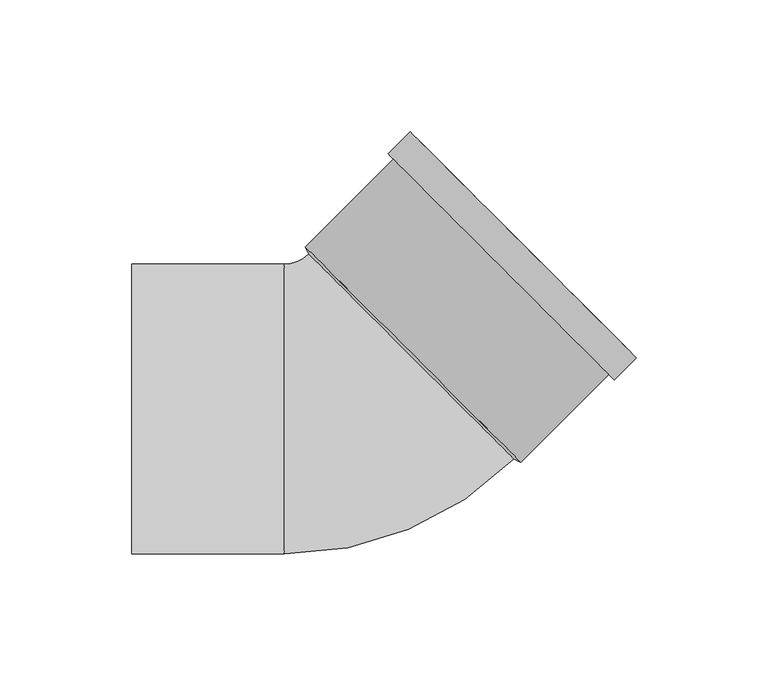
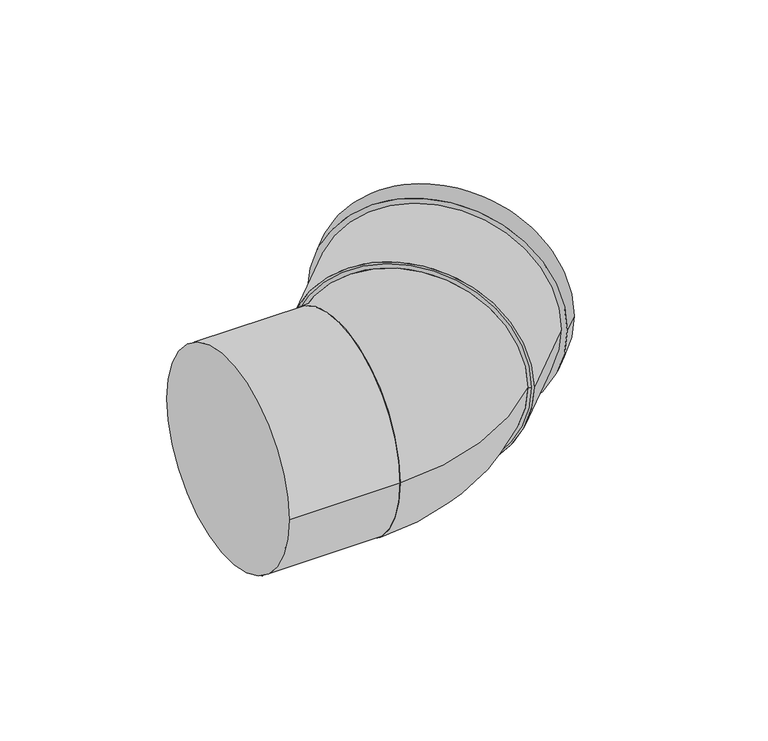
"""IFC4 building model written with IfcOpenShell, lengths in millimetres: pipe fitting geometry, Superdrain SKB Bend : Superdrain SKB Bend."""

from ifc_helpers import new_model, si_unit, point, frame, origin, origin_2d, place, context, project, spatial, polyline, circle_curve, ellipse_curve, trimmed, segment, composite_curve, outline, extrude, source, transform, mapped, element, save
from ifc_brep_helpers import plane_surface, revolved_surface, advanced_brep


def pipe_fitting_6bf98725(model_context):
    return source(origin(), model_context, "Body", "SolidModel", [
        advanced_brep(
        [(58.8312842, -18.9504617, 0.0), (-18.9504617, 58.8312842, 0.0), (-28.2, -55.0, 0.0), (-28.2, 55.0, 0.0)],
        [
            (0, 1, circle_curve(frame((19.9404112, 19.9404112, 0.0), z_axis=(0.7071067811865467, 0.7071067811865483, 0.0), x_axis=(-0.7071067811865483, 0.7071067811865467, 0.0)), 55.0)),
            (1, 0, circle_curve(frame((19.9404112, 19.9404112, 0.0), z_axis=(0.7071067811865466, 0.7071067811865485, 0.0), x_axis=(-0.7071067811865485, 0.7071067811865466, 0.0)), 55.0)),
            (2, 3, circle_curve(frame((-28.2, 0.0, 0.0), z_axis=(-1.0, 0.0, 0.0), x_axis=(0.0, 1.0, 0.0)), 55.0)),
            (3, 2, circle_curve(frame((-28.2, 0.0, 0.0), z_axis=(-1.0, 0.0, 0.0), x_axis=(0.0, 1.0, 0.0)), 55.0)),
            (3, 1, circle_curve(frame((-28.2, 68.0808225, 0.0), z_axis=(0.0, 0.0, 1.0), x_axis=(1.0, 0.0, 0.0)), 13.0808225)),
            (0, 2, circle_curve(frame((-28.2, 68.0808225, 0.0), z_axis=(0.0, 0.0, -1.0), x_axis=(1.0, 0.0, 0.0)), 123.0808225)),
        ],
        [
            plane_surface(frame((19.9404112, 19.9404112, 0.0), z_axis=(0.7071067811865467, 0.7071067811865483, 0.0), x_axis=(0.0, 0.0, -1.0))),
            plane_surface(frame((-28.2, 0.0, 0.0), z_axis=(-1.0, 0.0, 0.0), x_axis=(0.0, 0.0, -1.0))),
            revolved_surface(trimmed(ellipse_curve(frame((39.8808225, 68.0808225, 0.0), z_axis=(0.0, -1.0, 0.0), x_axis=(-1.0, 0.0, 0.0)), 55.0, 55.0), [point((-15.1191775, 68.0808225, 0.0))], [point((94.8808225, 68.0808225, 0.0))], True, "CARTESIAN"), (-28.2, 68.0808225, 0.0), (0.0, 0.0, 1.0)),
            revolved_surface(trimmed(ellipse_curve(frame((39.8808225, 68.0808225, 0.0), z_axis=(0.0, -1.0, 0.0), x_axis=(-1.0, 0.0, 0.0)), 55.0, 55.0), [point((94.8808225, 68.0808225, 0.0))], [point((-15.1191775, 68.0808225, 0.0))], True, "CARTESIAN"), (-28.2, 68.0808225, 0.0), (0.0, 0.0, 1.0)),
        ],
        [
            (0, [[1, 2]]),
            (1, [[3, 4]]),
            (2, [[-4, 5, -1, 6]]),
            (3, [[-3, -6, -2, -5]]),
        ],
    ),
        extrude(outline(composite_curve([segment(trimmed(circle_curve(origin_2d(), 57.75), [point((0.0, 57.75))], [point((0.0, -57.75))], False, "CARTESIAN"), True, "CONTINUOUS"), segment(trimmed(circle_curve(origin_2d(), 57.75), [point((0.0, -57.75))], [point((0.0, 57.75))], False, "CARTESIAN"), True, "CONTINUOUS")], self_intersect=False), holes=[composite_curve([segment(trimmed(circle_curve(origin_2d(), 55.0), [point((0.0, 55.0))], [point((0.0, -55.0))], True, "CARTESIAN"), True, "CONTINUOUS"), segment(trimmed(circle_curve(origin_2d(), 55.0), [point((0.0, -55.0))], [point((0.0, 55.0))], True, "CARTESIAN"), True, "CONTINUOUS")], self_intersect=False)]), frame((20.647518, 20.647518, 0.0), z_axis=(0.707106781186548, 0.7071067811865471, 0.0), x_axis=(0.0, 0.0, 1.0)), (0.0, 0.0, 1.0), 59.0),
        extrude(outline(composite_curve([segment(trimmed(circle_curve(origin_2d(), 60.6375), [point((0.0, -60.6375))], [point((0.0, 60.6375))], False, "CARTESIAN"), True, "CONTINUOUS"), segment(trimmed(circle_curve(origin_2d(), 60.6375), [point((0.0, 60.6375))], [point((0.0, -60.6375))], False, "CARTESIAN"), True, "CONTINUOUS")], self_intersect=False), holes=[composite_curve([segment(trimmed(circle_curve(origin_2d(), 55.0), [point((0.0, -55.0))], [point((0.0, 55.0))], True, "CARTESIAN"), True, "CONTINUOUS"), segment(trimmed(circle_curve(origin_2d(), 55.0), [point((0.0, 55.0))], [point((0.0, -55.0))], True, "CARTESIAN"), True, "CONTINUOUS")], self_intersect=False)]), frame((54.0229581, 54.0229581, 0.0), z_axis=(0.7071067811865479, 0.7071067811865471, 0.0), x_axis=(0.0, 0.0, 1.0)), (0.0, 0.0, 1.0), 11.8),
        advanced_brep(
        [(61.4829346, -20.1878986, 0.0), (-20.1878986, 61.4829346, 0.0), (58.8312842, -18.9504617, 0.0), (-18.9504617, 58.8312842, 0.0)],
        [
            (0, 1, circle_curve(frame((20.647518, 20.647518, 0.0), z_axis=(0.7071067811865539, 0.7071067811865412, 0.0), x_axis=(0.7071067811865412, -0.7071067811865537, 0.0)), 57.75)),
            (1, 0, circle_curve(frame((20.647518, 20.647518, 0.0), z_axis=(0.7071067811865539, 0.7071067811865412, 0.0), x_axis=(-0.7071067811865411, 0.7071067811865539, 0.0)), 57.75)),
            (2, 3, circle_curve(frame((19.9404112, 19.9404112, 0.0), z_axis=(-0.7071067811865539, -0.7071067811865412, 0.0), x_axis=(-0.7071067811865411, 0.7071067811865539, 0.0)), 55.0)),
            (3, 2, circle_curve(frame((19.9404112, 19.9404112, 0.0), z_axis=(-0.7071067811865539, -0.7071067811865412, 0.0), x_axis=(0.7071067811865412, -0.7071067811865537, 0.0)), 55.0)),
            (3, 1),
            (0, 2),
        ],
        [
            plane_surface(frame((20.647518, 20.647518, 0.0), z_axis=(0.7071067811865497, 0.7071067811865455, 0.0), x_axis=(0.0, 0.0, -1.0))),
            plane_surface(frame((19.9404112, 19.9404112, 0.0), z_axis=(-0.7071067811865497, -0.7071067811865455, 0.0), x_axis=(0.0, 0.0, -1.0))),
            revolved_surface(polyline([(-18.950461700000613, 58.83128410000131, 0.0), (-20.187898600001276, 61.482934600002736, 0.0)]), (5.7982756, 5.7982756, 0.0), (0.7071067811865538, 0.7071067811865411, 0.0)),
            revolved_surface(polyline([(58.83128409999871, -18.9504616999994, 0.0), (61.48293459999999, -20.1878986, 0.0)]), (5.7982756, 5.7982756, 0.0), (0.7071067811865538, 0.7071067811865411, 0.0)),
        ],
        [
            (0, [[1, 2]]),
            (1, [[3, 4]]),
            (2, [[-4, 5, -1, 6]]),
            (3, [[-3, -6, -2, -5]]),
        ],
    ),
        extrude(outline(composite_curve([segment(trimmed(circle_curve(origin_2d(), 55.0), [point((-55.0, 0.0))], [point((55.0, 0.0))], False, "CARTESIAN"), True, "CONTINUOUS"), segment(trimmed(circle_curve(origin_2d(), 55.0), [point((55.0, 0.0))], [point((-55.0, 0.0))], False, "CARTESIAN"), True, "CONTINUOUS")], self_intersect=False)), frame((-86.0, 0.0, 0.0), z_axis=(1.0, 0.0, 0.0), x_axis=(0.0, 1.0, 0.0)), (0.0, 0.0, 1.0), 57.8),
    ])


if __name__ == "__main__":
    model = new_model("IFC4")
    model_context = context("Model", 3, world=origin())
    ifc_project = project(units=[si_unit("LENGTHUNIT", "METRE", prefix="MILLI")], contexts=[model_context])
    site = spatial("IfcSite", under=ifc_project)
    building = spatial("IfcBuilding", under=site)
    placement = place(None, origin())
    pipe_fitting_shape = pipe_fitting_6bf98725(model_context)
    element("IfcPipeFitting", 1, ObjectType="Superdrain SKB Bend : Superdrain SKB Bend", at=placement, inside=building, context=model_context, shape_type="MappedRepresentation", body=[
        mapped(pipe_fitting_shape, transform((0.0, 0.0, 0.0), x_axis=(1.0, 0.0, 0.0), y_axis=(0.0, 1.0, 0.0), z_axis=(0.0, 0.0, 1.0))),
    ])
    save(model, "model.ifc")
